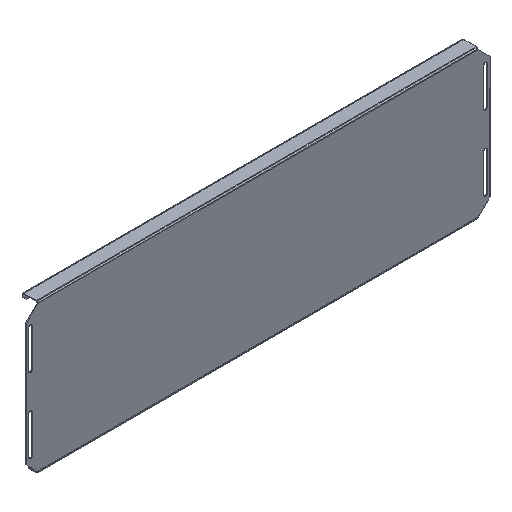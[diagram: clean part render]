
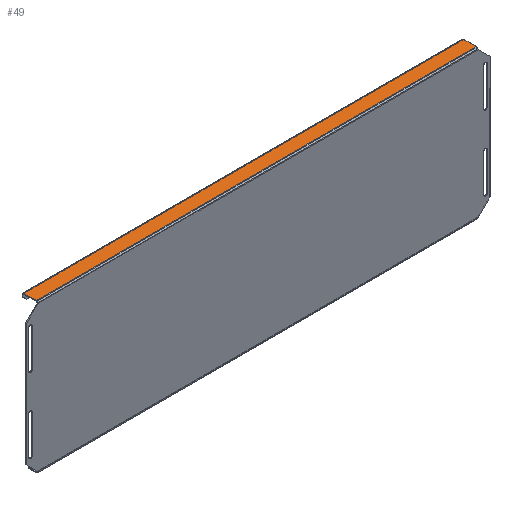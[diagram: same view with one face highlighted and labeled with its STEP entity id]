
A CAD part, isometric view. The second image highlights one B-rep face of the part: STEP entity #49.
In plain terms, the highlighted planar face has unit normal (0, 0, 1).
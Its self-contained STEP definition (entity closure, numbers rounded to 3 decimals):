
#49 = ADVANCED_FACE ( 'NONE', ( #1144 ), #1564, .F. ) ;
#212 = ORIENTED_EDGE ( 'NONE', *, *, #687, .T. ) ;
#234 = VERTEX_POINT ( 'NONE', #1552 ) ;
#298 = EDGE_LOOP ( 'NONE', ( #212, #479, #411, #378 ) ) ;
#378 = ORIENTED_EDGE ( 'NONE', *, *, #684, .T. ) ;
#411 = ORIENTED_EDGE ( 'NONE', *, *, #688, .F. ) ;
#479 = ORIENTED_EDGE ( 'NONE', *, *, #682, .T. ) ;
#558 = VERTEX_POINT ( 'NONE', #1565 ) ;
#561 = VERTEX_POINT ( 'NONE', #1571 ) ;
#641 = VERTEX_POINT ( 'NONE', #1648 ) ;
#682 = EDGE_CURVE ( 'NONE', #558, #561, #1011, .T. ) ;
#684 = EDGE_CURVE ( 'NONE', #641, #234, #1014, .T. ) ;
#687 = EDGE_CURVE ( 'NONE', #234, #558, #1028, .T. ) ;
#688 = EDGE_CURVE ( 'NONE', #641, #561, #924, .T. ) ;
#841 = AXIS2_PLACEMENT_3D ( 'NONE', #1555, #1598, #1549 ) ;
#909 = VECTOR ( 'NONE', #1691, 1000. ) ;
#924 = LINE ( 'NONE', #1697, #1142 ) ;
#1009 = VECTOR ( 'NONE', #1782, 1000. ) ;
#1011 = LINE ( 'NONE', #1783, #1009 ) ;
#1014 = LINE ( 'NONE', #1781, #1016 ) ;
#1016 = VECTOR ( 'NONE', #1700, 1000. ) ;
#1028 = LINE ( 'NONE', #1539, #909 ) ;
#1142 = VECTOR ( 'NONE', #1520, 1000. ) ;
#1144 = FACE_OUTER_BOUND ( 'NONE', #298, .T. ) ;
#1520 = DIRECTION ( 'NONE',  ( -1., 0., 0. ) ) ;
#1539 = CARTESIAN_POINT ( 'NONE',  ( 295., 17.8, 100. ) ) ;
#1549 = DIRECTION ( 'NONE',  ( -1., 0., 0. ) ) ;
#1552 = CARTESIAN_POINT ( 'NONE',  ( 295., 17.8, 100. ) ) ;
#1555 = CARTESIAN_POINT ( 'NONE',  ( -295., 20.2, 100. ) ) ;
#1564 = PLANE ( 'NONE',  #841 ) ;
#1565 = CARTESIAN_POINT ( 'NONE',  ( -295., 17.8, 100. ) ) ;
#1571 = CARTESIAN_POINT ( 'NONE',  ( -295., 1.2, 100. ) ) ;
#1598 = DIRECTION ( 'NONE',  ( 0., 0., -1. ) ) ;
#1648 = CARTESIAN_POINT ( 'NONE',  ( 295., 1.2, 100. ) ) ;
#1691 = DIRECTION ( 'NONE',  ( -1., 0., 0. ) ) ;
#1697 = CARTESIAN_POINT ( 'NONE',  ( -295., 1.2, 100. ) ) ;
#1700 = DIRECTION ( 'NONE',  ( 0., 1., 0. ) ) ;
#1781 = CARTESIAN_POINT ( 'NONE',  ( 295., 20.2, 100. ) ) ;
#1782 = DIRECTION ( 'NONE',  ( 0., -1., 0. ) ) ;
#1783 = CARTESIAN_POINT ( 'NONE',  ( -295., 20.2, 100. ) ) ;
